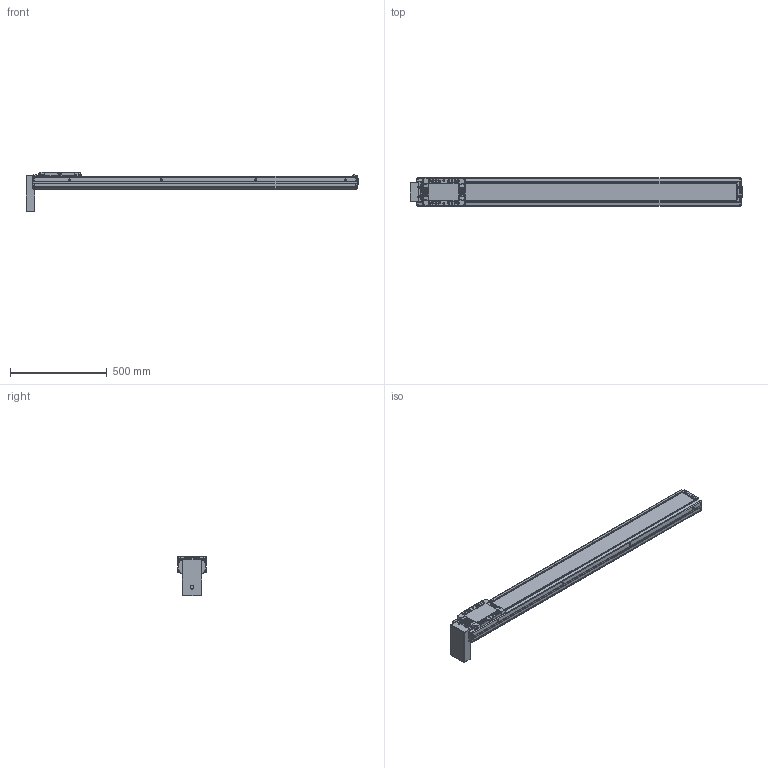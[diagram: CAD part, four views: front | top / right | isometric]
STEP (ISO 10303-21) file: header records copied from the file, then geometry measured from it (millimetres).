
FILE_DESCRIPTION(('STEP AP214'),'1');
FILE_NAME('Z:/Web/3D/SAN150/2013.04 (STP.)/SAN150ㅁㅁ-1400PB.stp','2013-05-07T08:42:52',(' '),(' '),'Spatial InterOp 3D',' ',' ');
FILE_SCHEMA(('automotive_design'));
Length unit declared in the file: millimetre
Products named in the file (44): PB; 스크루 : Round - M3.0 x 6.0; SLBL-SAN150; SLCV-SAN150; FHCS M4.0 x 8.0; BHCS M4.0 x 10.0; SFX-SAN150; RRCV-SAN150; FRBL-SAN150; Spacer; RN15; FRCV-SAN150; Screw 20; BASE-SAN150-000L ; SUS COVER; 스크루 : Round - M5.0 x 6.0
Bounding box: 1720 x 150 x 205.4 mm (x, y, z)
Volume: 9448814.7 mm3; surface area: 1656563.4 mm2
Topology: 44 solids, 44 shells, 2395 faces, 6144 edges, 3901 vertices
Faces by surface type: plane 1095, cylinder 877, cone 322, sphere 68, bspline 21, torus 12
Entity records: 95496 total; most frequent: CARTESIAN_POINT 16134, DIRECTION 13092, ORIENTED_EDGE 12000, EDGE_CURVE 6000, AXIS2_PLACEMENT_3D 4798, VERTEX_POINT 3901, LINE 3496, VECTOR 3496
